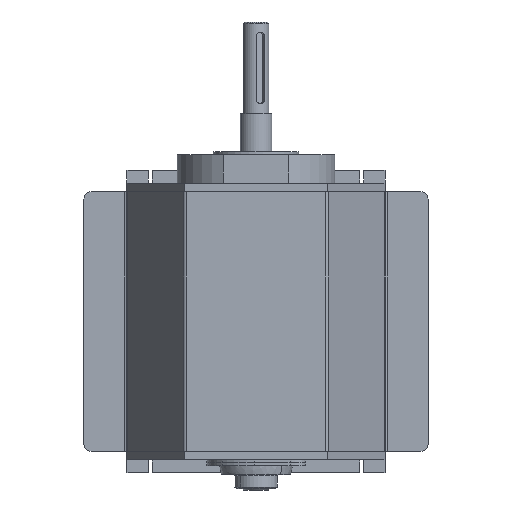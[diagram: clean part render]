
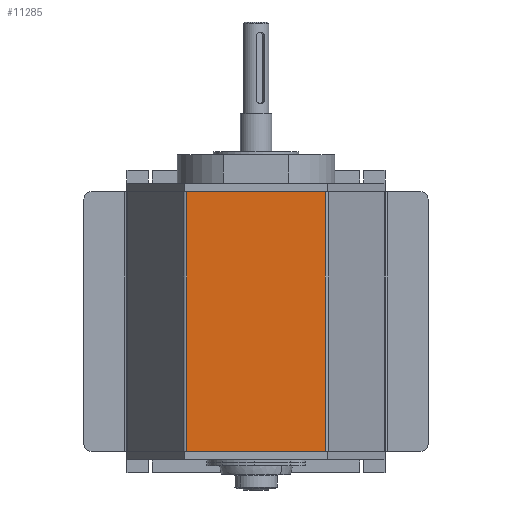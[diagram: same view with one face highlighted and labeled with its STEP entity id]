
A CAD part, front view. The second image highlights one B-rep face of the part: STEP entity #11285.
In plain terms, the highlighted planar face has unit normal (0, -1, 0).
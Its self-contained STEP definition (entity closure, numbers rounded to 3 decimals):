
#27 = CARTESIAN_POINT ( 'NONE',  ( -50., 0., -90.5 ) ) ;
#225 = VECTOR ( 'NONE', #12923, 1000. ) ;
#2118 = DIRECTION ( 'NONE',  ( 0., 0., -1. ) ) ;
#2968 = VERTEX_POINT ( 'NONE', #8886 ) ;
#3821 = VERTEX_POINT ( 'NONE', #9387 ) ;
#3842 = EDGE_CURVE ( 'NONE', #10247, #15876, #12830, .T. ) ;
#3873 = EDGE_CURVE ( 'NONE', #3821, #2968, #13978, .T. ) ;
#3888 = CARTESIAN_POINT ( 'NONE',  ( -50., 0., 379.779 ) ) ;
#5853 = DIRECTION ( 'NONE',  ( -1., 0., 0. ) ) ;
#5941 = CARTESIAN_POINT ( 'NONE',  ( -48.268, 0., 379.779 ) ) ;
#6161 = EDGE_CURVE ( 'NONE', #15876, #2968, #7910, .T. ) ;
#7716 = AXIS2_PLACEMENT_3D ( 'NONE', #3888, #11348, #5853 ) ;
#7910 = LINE ( 'NONE', #27, #18009 ) ;
#8057 = VECTOR ( 'NONE', #2118, 1000. ) ;
#8640 = CARTESIAN_POINT ( 'NONE',  ( -48.268, 0., -90.5 ) ) ;
#8886 = CARTESIAN_POINT ( 'NONE',  ( 48.268, 0., -90.5 ) ) ;
#9387 = CARTESIAN_POINT ( 'NONE',  ( 48.268, 0., 90.5 ) ) ;
#10247 = VERTEX_POINT ( 'NONE', #11801 ) ;
#10836 = DIRECTION ( 'NONE',  ( 1., 0., 0. ) ) ;
#10975 = EDGE_CURVE ( 'NONE', #3821, #10247, #15582, .T. ) ;
#11285 = ADVANCED_FACE ( 'NONE', ( #16995 ), #19953, .F. ) ;
#11348 = DIRECTION ( 'NONE',  ( 0., 1., 0. ) ) ;
#11688 = ORIENTED_EDGE ( 'NONE', *, *, #10975, .T. ) ;
#11801 = CARTESIAN_POINT ( 'NONE',  ( -48.268, 0., 90.5 ) ) ;
#12830 = LINE ( 'NONE', #5941, #8057 ) ;
#12923 = DIRECTION ( 'NONE',  ( 0., 0., -1. ) ) ;
#13825 = EDGE_LOOP ( 'NONE', ( #11688, #18822, #21385, #17779 ) ) ;
#13978 = LINE ( 'NONE', #20119, #225 ) ;
#15376 = DIRECTION ( 'NONE',  ( -1., 0., 0. ) ) ;
#15582 = LINE ( 'NONE', #22694, #16428 ) ;
#15876 = VERTEX_POINT ( 'NONE', #8640 ) ;
#16428 = VECTOR ( 'NONE', #15376, 1000. ) ;
#16995 = FACE_OUTER_BOUND ( 'NONE', #13825, .T. ) ;
#17779 = ORIENTED_EDGE ( 'NONE', *, *, #3873, .F. ) ;
#18009 = VECTOR ( 'NONE', #10836, 1000. ) ;
#18822 = ORIENTED_EDGE ( 'NONE', *, *, #3842, .T. ) ;
#19953 = PLANE ( 'NONE',  #7716 ) ;
#20119 = CARTESIAN_POINT ( 'NONE',  ( 48.268, 0., 379.779 ) ) ;
#21385 = ORIENTED_EDGE ( 'NONE', *, *, #6161, .T. ) ;
#22694 = CARTESIAN_POINT ( 'NONE',  ( -50., 0., 90.5 ) ) ;
